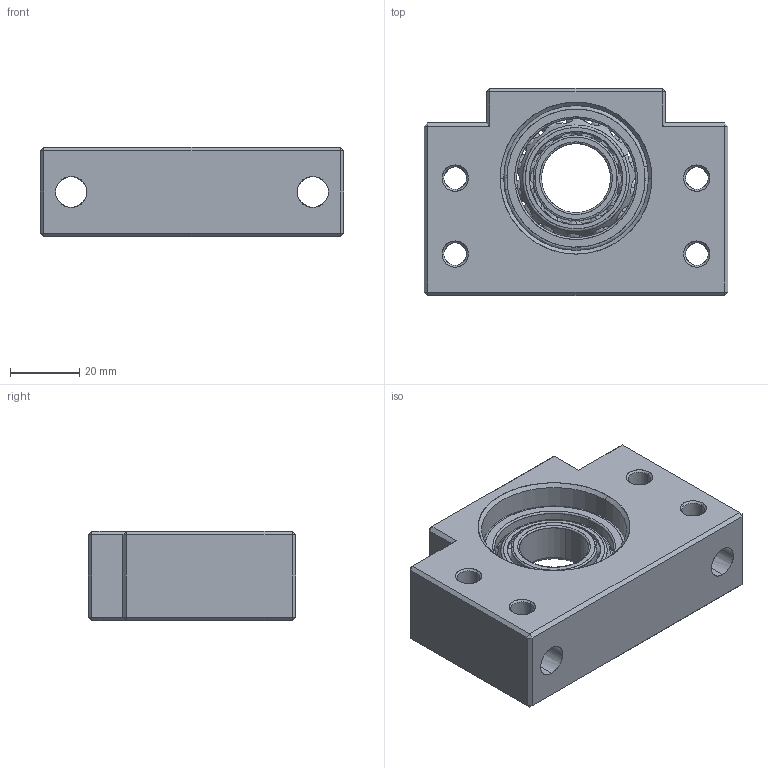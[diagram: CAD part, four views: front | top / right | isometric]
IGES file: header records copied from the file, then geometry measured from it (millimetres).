
Start section: SolidWorks IGES file using analytic representation for surfaces
Bounding box: 88 x 60 x 26 mm (x, y, z)
Surface area: 28697.6 mm2 (no closed solid volume)
Topology: 0 solids, 0 shells, 188 faces, 3754 edges, 3698 vertices
Faces by surface type: revolution 108, bspline 80
